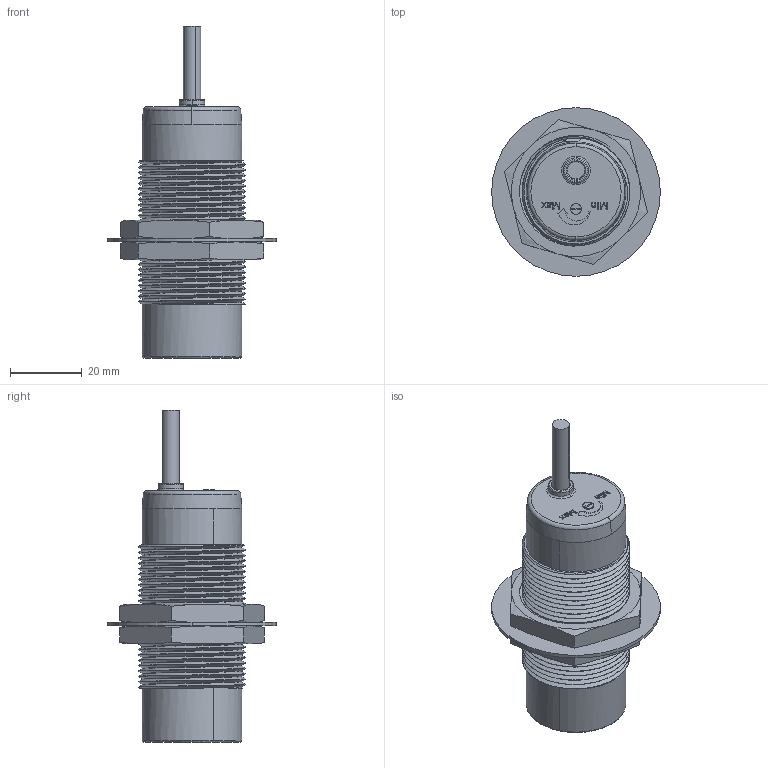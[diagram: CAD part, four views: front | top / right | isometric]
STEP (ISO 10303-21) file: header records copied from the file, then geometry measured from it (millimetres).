
FILE_DESCRIPTION (( 'STEP AP203' ), '1' );
FILE_NAME ('CN30P-D.STEP', '2025-09-04T07:58:27', ( '' ), ( '' ), 'SwSTEP 2.0', 'SolidWorks 2023', '' );
FILE_SCHEMA (( 'CONFIG_CONTROL_DESIGN' ));
Length unit declared in the file: millimetre
Products named in the file (1): CN30P-D
Bounding box: 47 x 47 x 92.5 mm (x, y, z)
Volume: 47675.4 mm3; surface area: 18732.8 mm2
Topology: 5 solids, 5 shells, 446 faces, 1193 edges, 776 vertices
Faces by surface type: cylinder 176, plane 164, torus 49, bspline 41, cone 14, sphere 2
Entity records: 30109 total; most frequent: CARTESIAN_POINT 19836, ORIENTED_EDGE 2382, DIRECTION 1807, EDGE_CURVE 1191, VERTEX_POINT 776, AXIS2_PLACEMENT_3D 613, LINE 581, VECTOR 581
